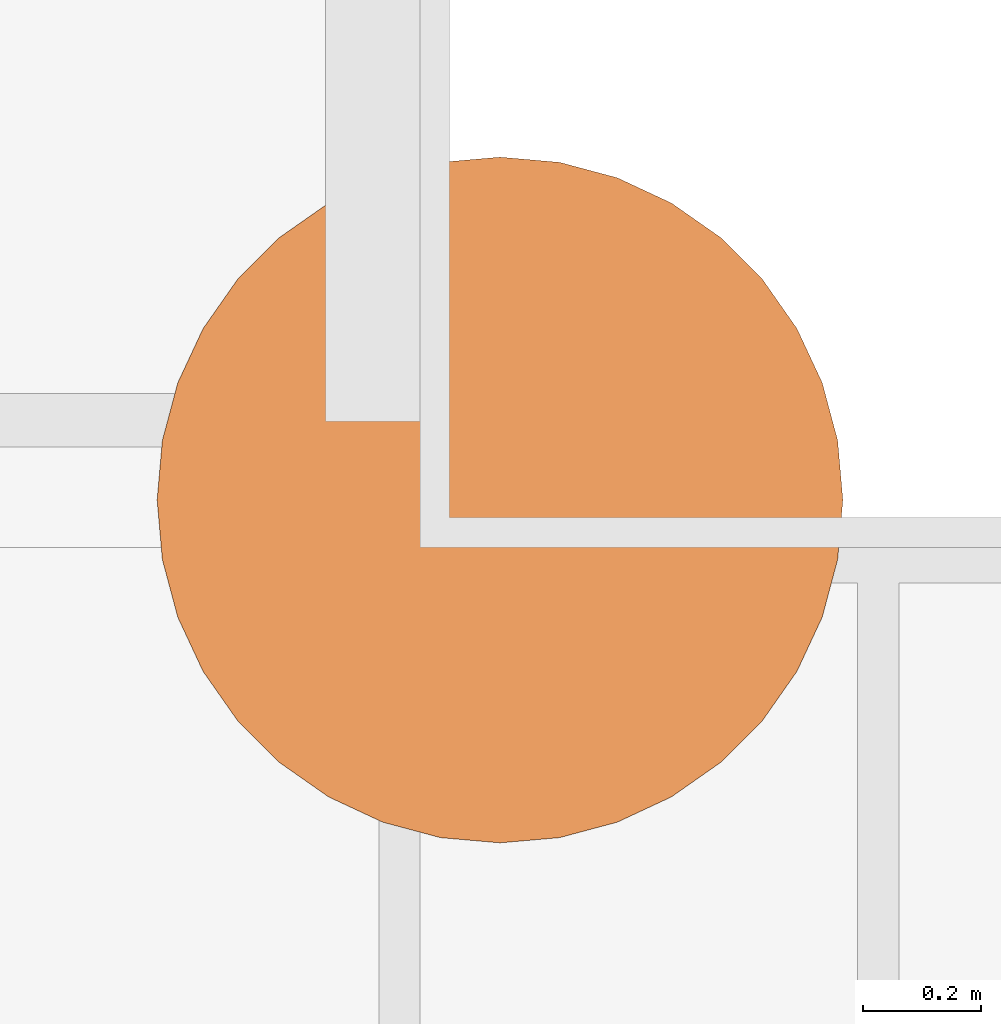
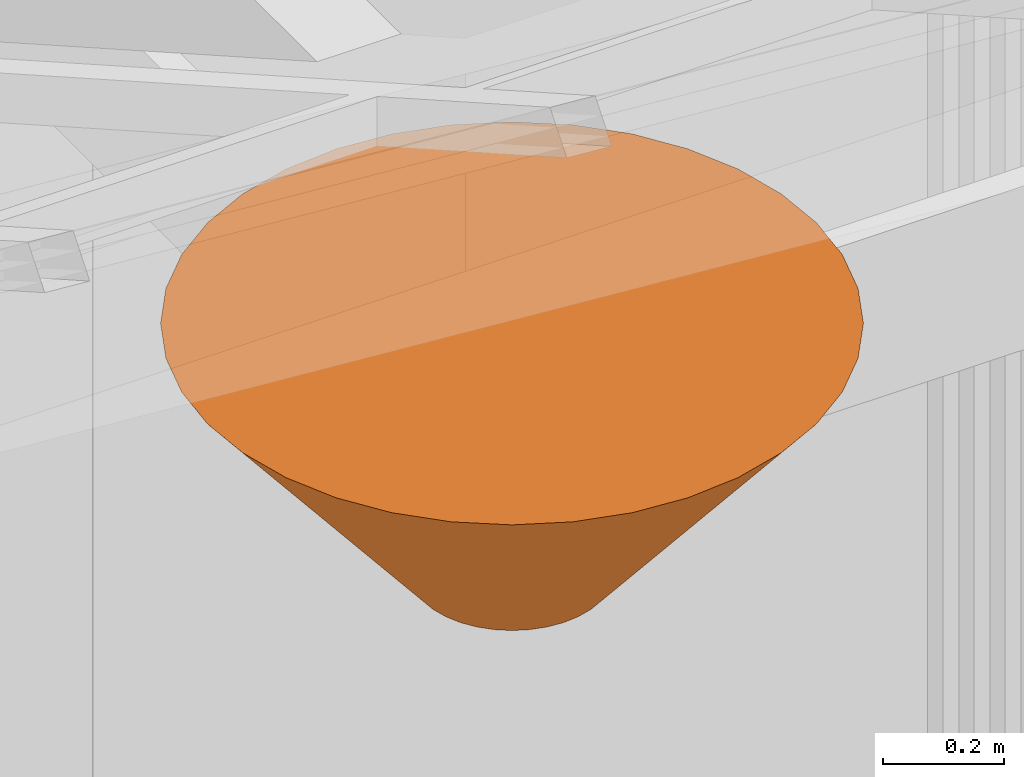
# One storey, part 48 of 51: 1 proxy.
"""IFC2X3 building model written with IfcOpenShell, lengths in metres."""

from ifc_helpers import new_model, entity, si_unit, converted_unit, derived_unit, direction, frame, origin, place, context, subcontext, project, spatial, faceted_brep, source, transform, mapped, material, type_object, type_shapes, element, save


model = new_model("IFC2X3")

# Units and contexts
model_context = context("Model", 3, precision=1e-05, world=origin(), true_north=direction((6.123031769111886e-17, 1.0)))
body_context = subcontext(model_context, "Body", "Model", "MODEL_VIEW")
ifc_project = project(units=[si_unit("LENGTHUNIT", "METRE"), si_unit("AREAUNIT", "SQUARE_METRE"), si_unit("VOLUMEUNIT", "CUBIC_METRE"), converted_unit("PLANEANGLEUNIT", "DEGREE", entity("IfcRatioMeasure", 0.017453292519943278), si_unit("PLANEANGLEUNIT", "RADIAN"), dimensions=[0, 0, 0, 0, 0, 0, 0]), si_unit("MASSUNIT", "GRAM", prefix="KILO"), derived_unit("MASSDENSITYUNIT", [(si_unit("MASSUNIT", "GRAM", prefix="KILO"), 1), (si_unit("LENGTHUNIT", "METRE"), -3)]), derived_unit("MOMENTOFINERTIAUNIT", [(si_unit("LENGTHUNIT", "METRE"), 4)]), si_unit("TIMEUNIT", "SECOND"), si_unit("FREQUENCYUNIT", "HERTZ"), si_unit("THERMODYNAMICTEMPERATUREUNIT", "DEGREE_CELSIUS"), derived_unit("THERMALTRANSMITTANCEUNIT", [(si_unit("MASSUNIT", "GRAM", prefix="KILO"), 1), (si_unit("THERMODYNAMICTEMPERATUREUNIT", "KELVIN"), -1), (si_unit("TIMEUNIT", "SECOND"), -3)]), derived_unit("THERMALCONDUCTANCEUNIT", [(si_unit("MASSUNIT", "GRAM", prefix="KILO"), 1), (si_unit("LENGTHUNIT", "METRE"), 1), (si_unit("THERMODYNAMICTEMPERATUREUNIT", "KELVIN"), -1), (si_unit("TIMEUNIT", "SECOND"), -3)]), derived_unit("VOLUMETRICFLOWRATEUNIT", [(si_unit("LENGTHUNIT", "METRE"), 3), (si_unit("TIMEUNIT", "SECOND"), -1)]), derived_unit("MASSFLOWRATEUNIT", [(si_unit("MASSUNIT", "GRAM", prefix="KILO"), 1), (si_unit("TIMEUNIT", "SECOND"), -1)]), derived_unit("ROTATIONALFREQUENCYUNIT", [(si_unit("TIMEUNIT", "SECOND"), -1)]), si_unit("ELECTRICCURRENTUNIT", "AMPERE"), si_unit("ELECTRICVOLTAGEUNIT", "VOLT"), si_unit("POWERUNIT", "WATT"), si_unit("FORCEUNIT", "NEWTON", prefix="KILO"), si_unit("ILLUMINANCEUNIT", "LUX"), si_unit("LUMINOUSFLUXUNIT", "LUMEN"), si_unit("LUMINOUSINTENSITYUNIT", "CANDELA"), derived_unit("USERDEFINED", [(si_unit("MASSUNIT", "GRAM", prefix="KILO"), -1), (si_unit("LENGTHUNIT", "METRE"), -2), (si_unit("TIMEUNIT", "SECOND"), 3), (si_unit("LUMINOUSFLUXUNIT", "LUMEN"), 1)]), derived_unit("USERDEFINED", [(si_unit("MASSUNIT", "GRAM", prefix="KILO"), 1), (si_unit("LENGTHUNIT", "METRE"), 3), (si_unit("TIMEUNIT", "SECOND"), -3), (si_unit("ELECTRICCURRENTUNIT", "AMPERE"), -2)]), derived_unit("USERDEFINED", [(si_unit("LENGTHUNIT", "METRE"), 2), (si_unit("TIMEUNIT", "SECOND"), -2)]), derived_unit("SOUNDPOWERUNIT", [(si_unit("MASSUNIT", "GRAM", prefix="KILO"), 1), (si_unit("LENGTHUNIT", "METRE"), 2), (si_unit("TIMEUNIT", "SECOND"), -3)]), derived_unit("SOUNDPRESSUREUNIT", [(si_unit("MASSUNIT", "GRAM", prefix="KILO"), 1), (si_unit("LENGTHUNIT", "METRE"), -1), (si_unit("TIMEUNIT", "SECOND"), -2)]), derived_unit("LINEARVELOCITYUNIT", [(si_unit("LENGTHUNIT", "METRE"), 1), (si_unit("TIMEUNIT", "SECOND"), -1)]), si_unit("PRESSUREUNIT", "PASCAL"), derived_unit("USERDEFINED", [(si_unit("LENGTHUNIT", "METRE"), -2), (si_unit("MASSUNIT", "GRAM", prefix="KILO"), 1), (si_unit("TIMEUNIT", "SECOND"), -2)]), derived_unit("LINEARFORCEUNIT", [(si_unit("MASSUNIT", "GRAM", prefix="KILO"), 1), (si_unit("LENGTHUNIT", "METRE"), 1), (si_unit("TIMEUNIT", "SECOND"), -2), (si_unit("LENGTHUNIT", "METRE"), -1)]), derived_unit("PLANARFORCEUNIT", [(si_unit("MASSUNIT", "GRAM", prefix="KILO"), 1), (si_unit("LENGTHUNIT", "METRE"), 1), (si_unit("TIMEUNIT", "SECOND"), -2), (si_unit("LENGTHUNIT", "METRE"), -2)]), derived_unit("SPECIFICHEATCAPACITYUNIT", [(si_unit("LENGTHUNIT", "METRE"), 2), (si_unit("TIMEUNIT", "SECOND"), -2), (si_unit("THERMODYNAMICTEMPERATUREUNIT", "KELVIN"), -1)]), derived_unit("VAPORPERMEABILITYUNIT", [(si_unit("TIMEUNIT", "SECOND"), 1), (si_unit("LENGTHUNIT", "METRE"), -1)]), derived_unit("DYNAMICVISCOSITYUNIT", [(si_unit("MASSUNIT", "GRAM", prefix="KILO"), 1), (si_unit("LENGTHUNIT", "METRE"), -1), (si_unit("TIMEUNIT", "SECOND"), -1)]), derived_unit("THERMALEXPANSIONCOEFFICIENTUNIT", [(si_unit("THERMODYNAMICTEMPERATUREUNIT", "KELVIN"), -1)])], contexts=[model_context])

# Site, building, storey
site_placement = place(None, origin())
site = spatial("IfcSite", under=ifc_project, at=site_placement, Name="Default", CompositionType="ELEMENT")
building_placement = place(site_placement, origin())
building = spatial("IfcBuilding", under=site, at=building_placement, CompositionType="ELEMENT")
storey_placement = place(building_placement, frame((0.0, 0.0, 3.06)))
storey = spatial("IfcBuildingStorey", under=building, at=storey_placement, Name="ÉTAGE", CompositionType="ELEMENT", Elevation=3.06)

# Proxy
ifc_material = material(Name="Peinture - Gris foncé")
building_element_proxy_type = type_object("IfcBuildingElementProxyType", Name="Symb-0001", PredefinedType="NOTDEFINED", material=ifc_material)
shared_shape = source(origin(), body_context, "Body", "Brep", [
    faceted_brep([(0.7474173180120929, 0.5504798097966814, 0.0), (0.7500000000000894, 0.5800000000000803, 0.0), (1.1600000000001, 0.5800000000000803, 0.5000000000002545), (1.1511884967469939, 0.4792840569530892, 0.5000000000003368), (0.739747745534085, 0.5218565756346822, 0.0), (0.7272243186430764, 0.4950000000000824, 0.0), (0.7102275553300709, 0.4707261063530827, 0.0), (0.6892738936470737, 0.4497724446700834, 0.0), (0.6650000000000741, 0.43277568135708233, 0.0), (0.6381434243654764, 0.4202522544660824, 0.0), (0.6095201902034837, 0.412582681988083, 0.0), (0.580000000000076, 0.41000000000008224, 0.0), (0.5504798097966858, 0.412582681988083, 0.0), (0.5218565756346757, 0.4202522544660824, 0.0), (0.49500000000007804, 0.43277568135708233, 0.0), (0.4707261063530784, 0.4497724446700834, 0.0), (0.44977244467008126, 0.4707261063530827, 0.0), (0.43277568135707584, 0.4950000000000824, 0.0), (0.42025225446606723, 0.5218565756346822, 0.0), (0.4125826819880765, 0.5504798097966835, 0.0), (0.4100000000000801, 0.5800000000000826, 0.0), (0.4125826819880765, 0.6095201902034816, 0.0), (0.42025225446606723, 0.6381434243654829, 0.0), (0.43277568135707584, 0.6650000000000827, 0.0), (0.44977244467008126, 0.6892738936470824, 0.0), (0.4707261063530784, 0.7102275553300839, 0.0), (0.49500000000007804, 0.7272243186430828, 0.0), (0.5218565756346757, 0.7397477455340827, 0.0), (0.5504798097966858, 0.7474173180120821, 0.0), (0.580000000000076, 0.7500000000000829, 0.0), (0.6095201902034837, 0.7474173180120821, 0.0), (0.6381434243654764, 0.7397477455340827, 0.0), (0.6650000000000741, 0.7272243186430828, 0.0), (0.6892738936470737, 0.7102275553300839, 0.0), (0.7102275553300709, 0.6892738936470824, 0.0), (0.7272243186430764, 0.6650000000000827, 0.0), (0.739747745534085, 0.6381434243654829, 0.0), (0.7474173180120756, 0.6095201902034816, 0.0), (1.1511884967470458, 0.6807159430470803, 0.5000000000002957), (1.1250217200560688, 0.7783716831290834, 0.5000000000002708), (1.0822947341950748, 0.8700000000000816, 0.5000000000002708), (1.0243057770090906, 0.9528168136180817, 0.5000000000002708), (0.9528168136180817, 1.024305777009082, 0.5000000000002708), (0.8700000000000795, 1.0822947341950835, 0.5000000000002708), (0.7783716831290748, 1.1250217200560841, 0.5000000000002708), (0.6807159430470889, 1.1511884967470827, 0.5000000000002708), (0.580000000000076, 1.1600000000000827, 0.5000000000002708), (0.47928405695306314, 1.1511884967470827, 0.5000000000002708), (0.3816283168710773, 1.1250217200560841, 0.5000000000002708), (0.2900000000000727, 1.0822947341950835, 0.5000000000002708), (0.20718318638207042, 1.024305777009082, 0.5000000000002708), (0.13569422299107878, 0.9528168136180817, 0.5000000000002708), (0.0777052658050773, 0.8700000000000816, 0.5000000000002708), (0.034978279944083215, 0.7783716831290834, 0.5000000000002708), (0.00881150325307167, 0.6807159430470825, 0.5000000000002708), (0.0, 0.5800000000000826, 0.5000000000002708), (0.00881150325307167, 0.4792840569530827, 0.5000000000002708), (0.034978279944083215, 0.3816283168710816, 0.5000000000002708), (0.0777052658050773, 0.2900000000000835, 0.5000000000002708), (0.13569422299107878, 0.20718318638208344, 0.5000000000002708), (0.20718318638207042, 0.1356942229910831, 0.5000000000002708), (0.2900000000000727, 0.07770526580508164, 0.5000000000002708), (0.3816283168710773, 0.03497827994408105, 0.5000000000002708), (0.47928405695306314, 0.008811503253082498, 0.5000000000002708), (0.580000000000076, 0.0, 0.5000000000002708), (0.6807159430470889, 0.008811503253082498, 0.5000000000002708), (0.7783716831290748, 0.03497827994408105, 0.5000000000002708), (0.8700000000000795, 0.07770526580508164, 0.5000000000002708), (0.9528168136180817, 0.1356942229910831, 0.5000000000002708), (1.0243057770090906, 0.20718318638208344, 0.5000000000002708), (1.0822947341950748, 0.2900000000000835, 0.5000000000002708), (1.1250217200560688, 0.3816283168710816, 0.5000000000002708)], [[[0, 1, 2, 3]], [[0, 4, 5, 6, 7, 8, 9, 10, 11, 12, 13, 14, 15, 16, 17, 18, 19, 20, 21, 22, 23, 24, 25, 26, 27, 28, 29, 30, 31, 32, 33, 34, 35, 36, 37, 1]], [[1, 37, 38, 2]], [[3, 2, 38, 39, 40, 41, 42, 43, 44, 45, 46, 47, 48, 49, 50, 51, 52, 53, 54, 55, 56, 57, 58, 59, 60, 61, 62, 63, 64, 65, 66, 67, 68, 69, 70, 71]], [[4, 0, 3, 71]], [[5, 4, 71, 70]], [[6, 5, 70, 69]], [[7, 6, 69, 68]], [[8, 7, 68, 67]], [[9, 8, 67, 66]], [[10, 9, 66, 65]], [[11, 10, 65, 64]], [[12, 11, 64, 63]], [[13, 12, 63, 62]], [[14, 13, 62, 61]], [[15, 14, 61, 60]], [[16, 15, 60, 59]], [[17, 16, 59, 58]], [[18, 17, 58, 57]], [[19, 18, 57, 56]], [[20, 19, 56, 55]], [[21, 20, 55, 54]], [[22, 21, 54, 53]], [[23, 22, 53, 52]], [[24, 23, 52, 51]], [[25, 24, 51, 50]], [[26, 25, 50, 49]], [[27, 26, 49, 48]], [[28, 27, 48, 47]], [[29, 28, 47, 46]], [[30, 29, 46, 45]], [[31, 30, 45, 44]], [[32, 31, 44, 43]], [[33, 32, 43, 42]], [[34, 33, 42, 41]], [[35, 34, 41, 40]], [[36, 35, 40, 39]], [[37, 36, 39, 38]]]),
])
type_shapes(building_element_proxy_type, [shared_shape])
proxy_placement = place(storey_placement, frame((120.23584632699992, 12.747209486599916, 2.2399999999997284)))
element("IfcBuildingElementProxy", 1, at=proxy_placement, inside=storey, type_object=building_element_proxy_type, material=ifc_material, Name="Symb-0001 249329:Symb-0001 249329", ObjectType="Symb-0001 249329:Symb-0001 249329", context=body_context, shape_type="MappedRepresentation", body=[
    mapped(shared_shape, transform((0.0, 0.0, 0.0), scale=1.0)),
])

save(model, "model.ifc")
